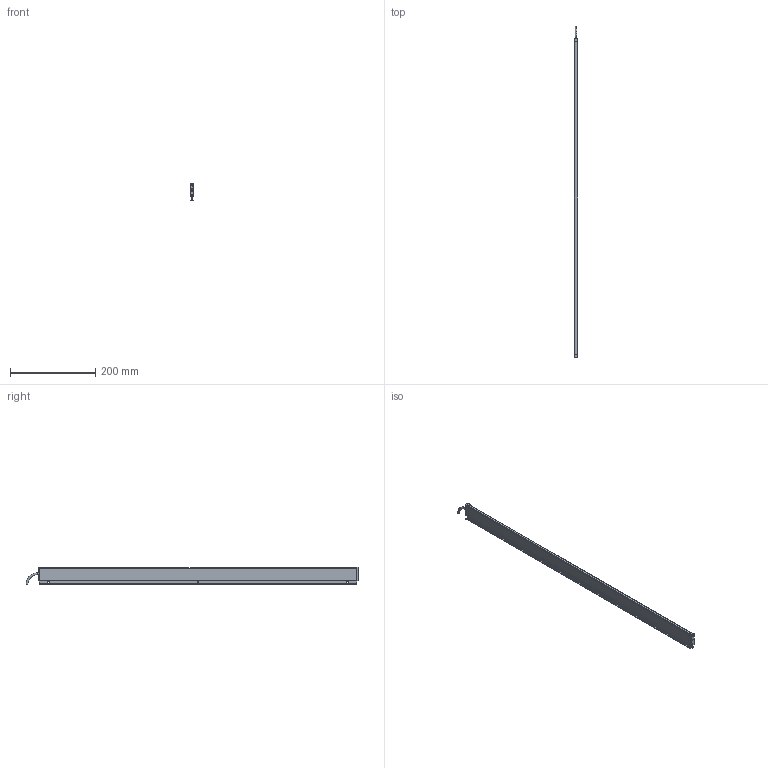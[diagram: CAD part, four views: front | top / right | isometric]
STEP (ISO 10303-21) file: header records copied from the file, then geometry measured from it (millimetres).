
FILE_DESCRIPTION (( 'STEP AP214' ), '1' );
FILE_NAME ('ILG-L-K1-0750mm.STEP', '2017-07-11T07:08:09', ( '' ), ( '' ), 'SwSTEP 2.0', 'SolidWorks 2016', '' );
FILE_SCHEMA (( 'AUTOMOTIVE_DESIGN' ));
Length unit declared in the file: millimetre
Products named in the file (1): ILG-L-K1-0750mm
Bounding box: 9 x 778.25 x 40.71 mm (x, y, z)
Volume: 107671 mm3; surface area: 149320.7 mm2
Topology: 9 solids, 9 shells, 430 faces, 1108 edges, 698 vertices
Faces by surface type: plane 205, cylinder 151, cone 64, torus 10
Entity records: 17910 total; most frequent: CARTESIAN_POINT 2385, DIRECTION 2328, ORIENTED_EDGE 2200, EDGE_CURVE 1100, AXIS2_PLACEMENT_3D 849, VERTEX_POINT 698, LINE 630, VECTOR 630
